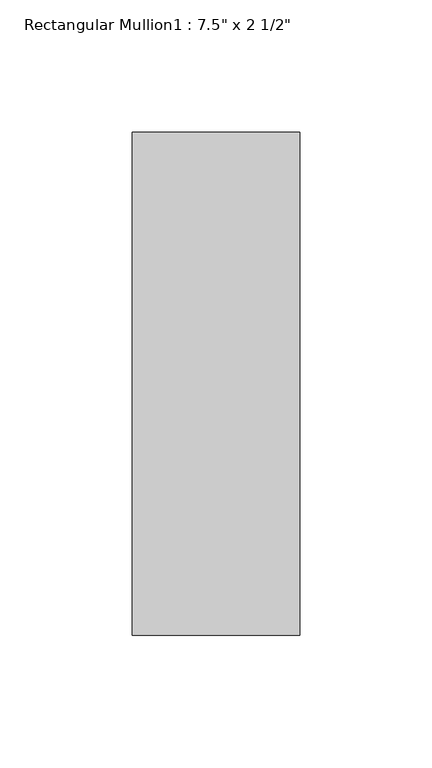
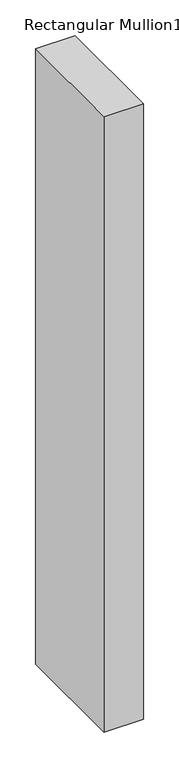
"""IFC4 building model written with IfcOpenShell, lengths in millimetres: member geometry."""

from ifc_helpers import new_model, si_unit, frame, origin, place, context, project, spatial, polyline, outline, extrude, source, transform, mapped, element, save


def member_9aa6c740(model_context):
    return source(origin(), model_context, "Body", "SweptSolid", [
        extrude(outline(polyline([(-63.5, 165.1), (0.0, 165.1), (0.0, -25.4), (-63.5, -25.4), (-63.5, 165.1)])), frame((0.0, 0.0, -1047.75), z_axis=(0.0, 0.0, 1.0), x_axis=(1.0, 0.0, 0.0)), (0.0, 0.0, 1.0), 1047.75),
    ])


if __name__ == "__main__":
    model = new_model("IFC4")
    model_context = context("Model", 3, world=origin())
    ifc_project = project(units=[si_unit("LENGTHUNIT", "METRE", prefix="MILLI")], contexts=[model_context])
    site = spatial("IfcSite", under=ifc_project)
    building = spatial("IfcBuilding", under=site)
    placement = place(None, origin())
    member_shape = member_9aa6c740(model_context)
    element("IfcMember", 1, ObjectType="Rectangular Mullion1 : 7.5\" x 2 1/2\"", at=placement, inside=building, context=model_context, shape_type="MappedRepresentation", body=[
        mapped(member_shape, transform((0.0, 0.0, 0.0), x_axis=(1.0, 0.0, 0.0), y_axis=(0.0, 1.0, 0.0), z_axis=(0.0, 0.0, 1.0))),
    ])
    save(model, "model.ifc")
